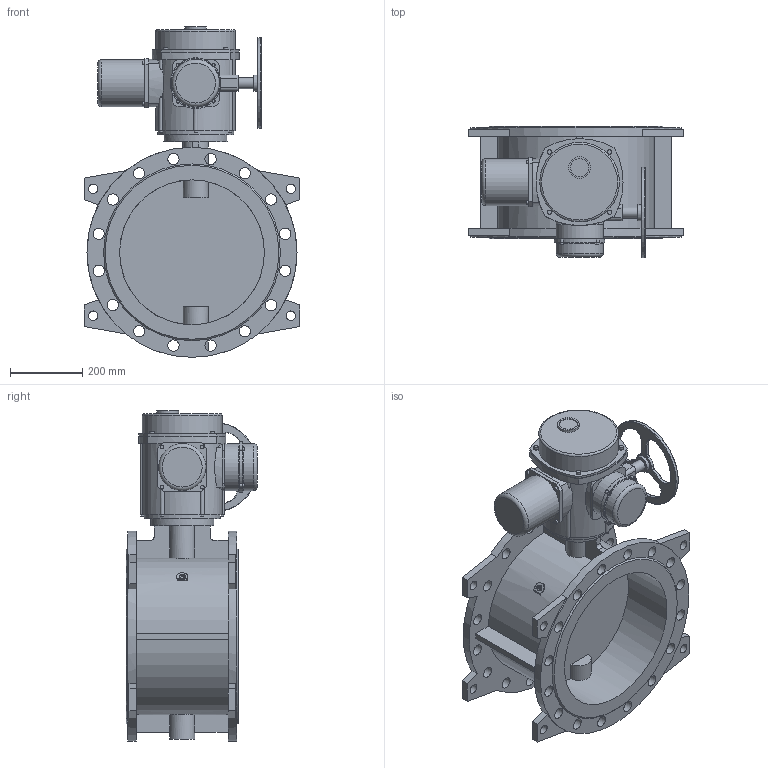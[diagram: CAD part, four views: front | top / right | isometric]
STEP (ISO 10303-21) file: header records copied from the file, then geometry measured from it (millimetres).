
FILE_DESCRIPTION(('STEP AP203'), '1');
FILE_NAME('青蜮铕 023F.Z DN400 PN16_菹_QT.Z300', '', ('UNSPECIFIED'), ('UNSPECIFIED'), 'ASCON STEP Converter 1.6', 'ASCON Math Kernel', '');
FILE_SCHEMA(('CONFIG_CONTROL_DESIGN'));
Length unit declared in the file: millimetre
Bounding box: 596 x 364 x 913 mm (x, y, z)
Volume: 34921488.2 mm3; surface area: 2425111.9 mm2
Topology: 1 solids, 1 shells, 393 faces, 983 edges, 626 vertices
Faces by surface type: cylinder 186, plane 146, torus 43, cone 18
Full cylindrical faces by diameter (mm): 8 x10, 10 x4, 12 x4, 12.386 x1, 13.835 x4, 17.294 x4, 18 x4, 26 x8, 30 x1, 31 x32, 45 x1, 50 x1, 60 x1, 70 x1, 130 x3, 175 x1, 210 x1, 220 x1, 250 x1, 400 x2, 580 x2
Entity records: 16799 total; most frequent: CARTESIAN_POINT 4229, DIRECTION 2075, ORIENTED_EDGE 1726, AXIS2_PLACEMENT_3D 867, EDGE_CURVE 863, EDGE_LOOP 625, VERTEX_POINT 618, CIRCLE 473
